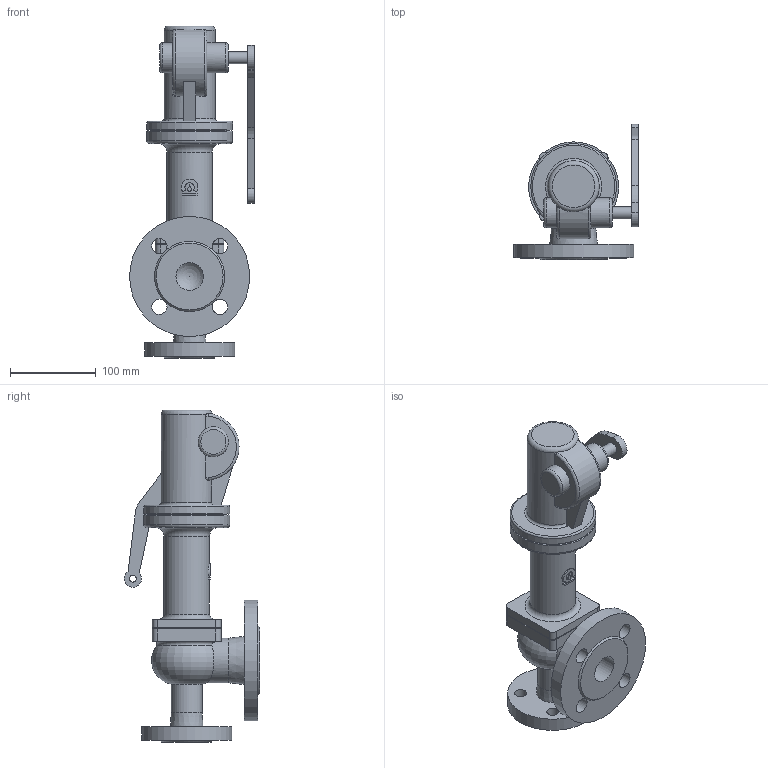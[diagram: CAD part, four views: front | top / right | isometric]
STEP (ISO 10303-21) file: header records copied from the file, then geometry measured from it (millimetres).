
FILE_DESCRIPTION(('STEP AP203'), '1');
FILE_NAME('Êëàïàí ïðåäîõðàíèòåëüíûé ïîëíîïîäüåìíûé SV2F DN20x32', '', ('UNSPECIFIED'), ('UNSPECIFIED'), 'ASCON STEP Converter 1.6', 'ASCON Math Kernel', '');
FILE_SCHEMA(('CONFIG_CONTROL_DESIGN'));
Length unit declared in the file: millimetre
Bounding box: 145.5 x 157.67 x 387 mm (x, y, z)
Volume: 1688035.4 mm3; surface area: 200305 mm2
Topology: 1 solids, 1 shells, 129 faces, 372 edges, 252 vertices
Faces by surface type: plane 60, cylinder 51, torus 12, cone 5, sphere 1
Full cylindrical faces by diameter (mm): 8 x1, 14 x5, 18 x4, 20 x1, 32 x1, 35 x2, 36 x1, 52 x1, 53 x1, 70 x1, 87.026 x1, 100 x2, 105 x1, 140 x1
Entity records: 6698 total; most frequent: CARTESIAN_POINT 2283, DIRECTION 711, ORIENTED_EDGE 658, EDGE_CURVE 329, AXIS2_PLACEMENT_3D 297, VERTEX_POINT 250, EDGE_LOOP 198, FACE_BOUND 171
